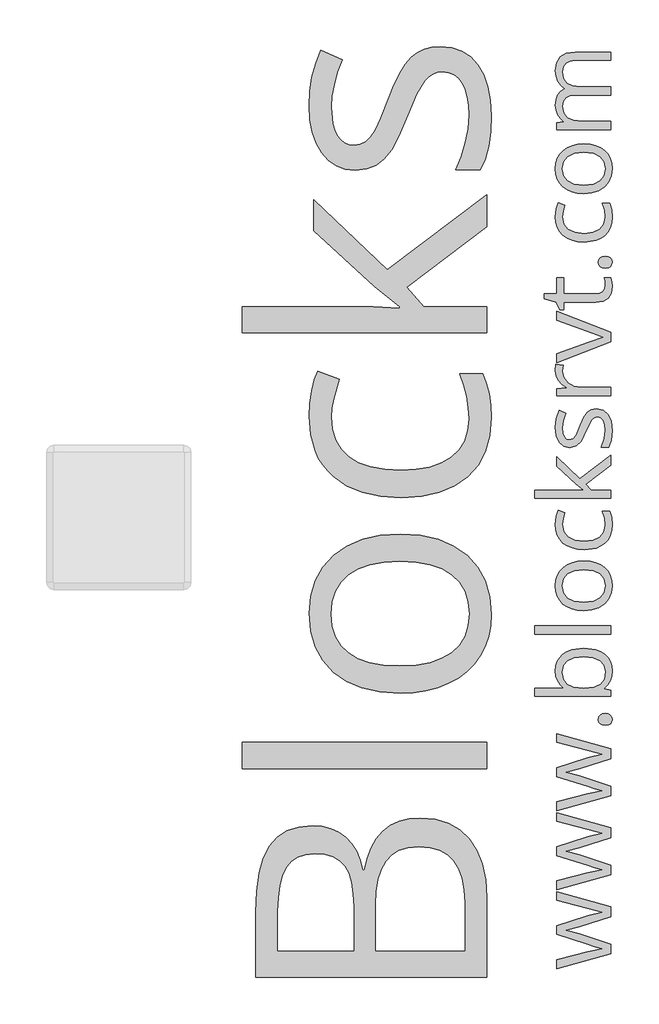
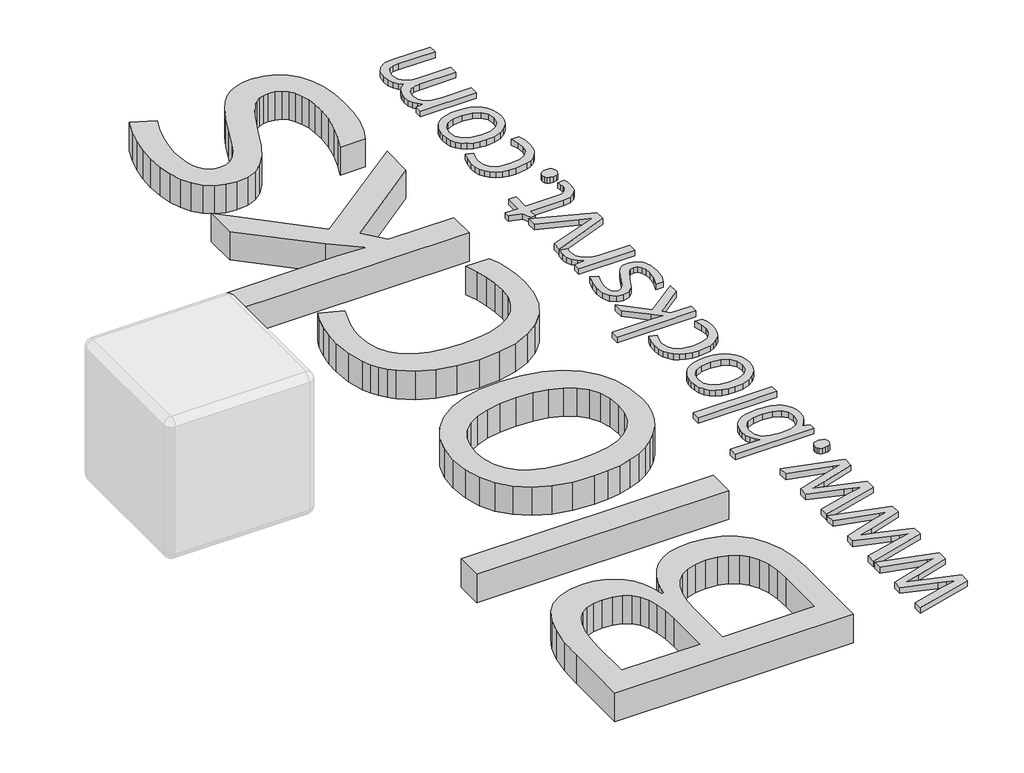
# One storey, part 11 of 11: 2 proxies.
"""IFC4 building model written with IfcOpenShell, lengths in millimetres."""

from ifc_helpers import new_model, si_unit, origin, origin_with_axes, place, context, project, spatial, polyline, outline, extrude, element, save

model = new_model("IFC4")

# Units and contexts
model_context = context("Model", 3, world=origin())
ifc_project = project(units=[si_unit("LENGTHUNIT", "METRE", prefix="MILLI")], contexts=[model_context])

# Site, building, storey
site = spatial("IfcSite", under=ifc_project)
building = spatial("IfcBuilding", under=site)
storey = spatial("IfcBuildingStorey", under=building, Name="PORTOBELLO - SHOWROOM", Elevation=0.0)

# Proxies
placement = place(None, origin())
element("IfcBuildingElementProxy", 1, Name="25mm OpenSans", ObjectType="25mm OpenSans", at=placement, inside=storey, context=model_context, shape_type="SweptSolid", body=[
    extrude(outline(polyline([(-10492.0104038, 8363.3703802), (-10601.8220472, 8328.8902738), (-10647.5456666, 8316.672323), (-10601.4472634, 8303.2550642), (-10492.0104038, 8267.7255632), (-10492.0104038, 8234.8195486), (-10679.1024596, 8183.4741727), (-10679.1024596, 8213.3069605), (-10571.7643892, 8241.0409591), (-10522.0680618, 8251.9846451), (-10547.2535309, 8259.4053636), (-10571.7643892, 8266.7511254), (-10679.1024596, 8301.2312319), (-10679.1024596, 8332.1134142), (-10571.6894324, 8365.7689963), (-10522.3678888, 8378.8114714), (-10541.3319474, 8383.9085306), (-10679.1024596, 8419.6629018), (-10679.1024596, 8449.1958626), (-10492.0104038, 8397.1758759), (-10492.0104038, 8363.3703802)])), origin_with_axes(), (0.0, 0.0, 1.0), 20.0),
    extrude(outline(polyline([(-10492.0104038, 8636.8126157), (-10601.8220472, 8602.3325092), (-10647.5456666, 8590.1145585), (-10601.4472634, 8576.6972996), (-10492.0104038, 8541.1677987), (-10492.0104038, 8508.261784), (-10679.1024596, 8456.9164081), (-10679.1024596, 8486.7491959), (-10571.7643892, 8514.4831945), (-10522.0680618, 8525.4268805), (-10547.2535309, 8532.8475991), (-10571.7643892, 8540.1933609), (-10679.1024596, 8574.6734673), (-10679.1024596, 8605.5556496), (-10571.6894324, 8639.2112318), (-10522.3678888, 8652.2537068), (-10541.3319474, 8657.350766), (-10679.1024596, 8693.1051373), (-10679.1024596, 8722.638098), (-10492.0104038, 8670.6181113), (-10492.0104038, 8636.8126157)])), origin_with_axes(), (0.0, 0.0, 1.0), 20.0),
    extrude(outline(polyline([(-10492.0104038, 8910.2548511), (-10601.8220472, 8875.7747446), (-10647.5456666, 8863.5567939), (-10601.4472634, 8850.1395351), (-10492.0104038, 8814.6100341), (-10492.0104038, 8781.7040195), (-10679.1024596, 8730.3586436), (-10679.1024596, 8760.1914313), (-10571.7643892, 8787.92543), (-10522.0680618, 8798.8691159), (-10547.2535309, 8806.2898345), (-10571.7643892, 8813.6355963), (-10679.1024596, 8848.1157027), (-10679.1024596, 8878.997885), (-10571.6894324, 8912.6534672), (-10522.3678888, 8925.6959422), (-10541.3319474, 8930.7930014), (-10679.1024596, 8966.5473727), (-10679.1024596, 8996.0803334), (-10492.0104038, 8944.0603467), (-10492.0104038, 8910.2548511)])), origin_with_axes(), (0.0, 0.0, 1.0), 20.0),
    extrude(outline(polyline([(-10511.1243759, 9025.2385104), (-10521.533995, 9026.540884), (-10529.0765183, 9030.4480047), (-10533.6582498, 9036.79122), (-10535.1854936, 9045.401877), (-10533.6582498, 9054.265513), (-10529.0765183, 9060.9179249), (-10521.533995, 9065.0780247), (-10511.1243759, 9066.4647246), (-10500.9208879, 9065.0499159), (-10493.3971038, 9060.8054897), (-10488.7591547, 9054.1249691), (-10487.2131716, 9045.401877), (-10492.7974497, 9030.972702), (-10500.1713203, 9026.6720583), (-10511.1243759, 9025.2385104)])), origin_with_axes(), (0.0, 0.0, 1.0), 20.0),
    extrude(outline(polyline([(-10683.8996918, 9213.604831), (-10682.2998336, 9231.1892168), (-10677.500259, 9246.6888679), (-10669.500968, 9260.1037843), (-10658.3019606, 9271.433966), (-10644.1796399, 9280.4358036), (-10627.4104088, 9286.8656876), (-10585.9312155, 9292.0095948), (-10544.3114783, 9286.8188396), (-10527.4227849, 9280.3303957), (-10513.1482082, 9271.2465742), (-10501.8016297, 9259.8625173), (-10493.6969308, 9246.4733672), (-10488.8341114, 9231.0791241), (-10487.2131716, 9213.6797877), (-10488.9278074, 9196.036842), (-10494.0717145, 9179.9867272), (-10502.7760675, 9165.979184), (-10515.1720405, 9154.4639528), (-10515.1720405, 9152.3651637), (-10492.0104038, 9146.3686234), (-10492.0104038, 9126.0553433), (-10755.8581748, 9126.0553433), (-10755.8581748, 9154.388996), (-10693.269286, 9154.388996), (-10655.4910824, 9153.0397745), (-10667.919849, 9165.5950306), (-10676.7975395, 9179.1996813), (-10682.1241538, 9195.2029481), (-10683.8996918, 9213.604831)]), holes=[polyline([(-10659.9135308, 9209.6321231), (-10655.6784743, 9184.3623277), (-10642.9733046, 9167.3190359), (-10620.2426692, 9157.621506), (-10585.9312155, 9154.388996), (-10551.4792178, 9157.7152019), (-10528.4768642, 9167.6938197), (-10515.5187155, 9184.9994601), (-10511.1993326, 9210.3067339), (-10516.0434128, 9233.3840442), (-10530.5756533, 9249.6965076), (-10554.177661, 9259.3940376), (-10586.2310425, 9262.6265475), (-10618.677947, 9259.3940376), (-10641.6615615, 9249.6965076), (-10655.3505385, 9233.2153915), (-10659.9135308, 9209.6321231)])]), origin_with_axes(), (0.0, 0.0, 1.0), 20.0),
    extrude(outline(polyline([(-10492.0104038, 9369.2900072), (-10492.0104038, 9340.9563546), (-10755.8581748, 9340.9563546), (-10755.8581748, 9369.2900072), (-10492.0104038, 9369.2900072)])), origin_with_axes(), (0.0, 0.0, 1.0), 20.0),
    extrude(outline(polyline([(-10585.7063452, 9594.2352234), (-10563.7791526, 9592.7946483), (-10544.3958047, 9588.472923), (-10527.5563016, 9581.2700475), (-10513.2606433, 9571.1860218), (-10501.8648745, 9558.5675209), (-10493.7250396, 9543.7612198), (-10488.8411386, 9526.7671184), (-10487.2131716, 9507.5852168), (-10490.2020722, 9483.8895132), (-10499.1687738, 9463.023427), (-10513.7197535, 9445.7927434), (-10533.4614883, 9433.0032474), (-10557.6912588, 9425.0765708), (-10585.7063452, 9422.4343452), (-10607.6241683, 9423.8632083), (-10626.9794074, 9428.1497976), (-10643.7720625, 9435.2941132), (-10658.0021336, 9445.2961549), (-10669.3323154, 9457.8373567), (-10677.4253023, 9472.5991523), (-10682.2810945, 9489.5815416), (-10683.8996918, 9508.7845248), (-10682.2436161, 9527.3808268), (-10677.2753888, 9543.9673508), (-10668.99501, 9558.5440969), (-10657.4024796, 9571.1110651), (-10642.9850166, 9581.2278843), (-10626.2298399, 9588.4541838), (-10607.1369494, 9592.7899635), (-10585.7063452, 9594.2352234)]), holes=[polyline([(-10585.9312155, 9451.8923492), (-10553.7747684, 9455.4715342), (-10530.3133047, 9466.209089), (-10515.9778256, 9483.8801436), (-10511.1993326, 9508.2598276), (-10515.9590865, 9532.6582507), (-10530.2383479, 9550.3855228), (-10553.6810725, 9561.1792953), (-10585.9312155, 9564.7772194), (-10617.8534227, 9561.1792953), (-10641.0619074, 9550.3855228), (-10655.200625, 9532.5645548), (-10659.9135308, 9507.8850438), (-10655.2662121, 9483.5522078), (-10641.3242561, 9466.0216972), (-10618.1813585, 9455.4246862), (-10585.9312155, 9451.8923492)])]), origin_with_axes(), (0.0, 0.0, 1.0), 20.0),
    extrude(outline(polyline([(-10487.2131716, 9719.6378714), (-10488.7989754, 9700.2943443), (-10493.5563869, 9683.2651069), (-10501.4854059, 9668.5501593), (-10512.5860326, 9656.1495015), (-10526.5865486, 9646.3114276), (-10543.2152358, 9639.284232), (-10584.3571237, 9633.6624755), (-10606.8043288, 9635.0889963), (-10626.5484061, 9639.3685584), (-10643.5893554, 9646.5011619), (-10657.9271769, 9656.4868069), (-10669.2901522, 9669.1099926), (-10677.4065631, 9684.1552184), (-10682.2764097, 9701.6224842), (-10683.8996918, 9721.5117902), (-10681.126292, 9748.75857), (-10674.6050545, 9770.0837662), (-10651.1435907, 9761.3138261), (-10657.4024796, 9740.5882839), (-10659.9135308, 9720.7622227), (-10655.224049, 9695.54396), (-10641.1556034, 9677.5309153), (-10617.708194, 9666.7230885), (-10584.881821, 9663.1204795), (-10553.4187238, 9666.6340773), (-10530.2383479, 9677.1748707), (-10515.9590865, 9694.6116854), (-10511.1993326, 9718.8133471), (-10513.729123, 9742.7807689), (-10521.3184943, 9767.3103664), (-10496.6577225, 9767.3103664), (-10489.5743094, 9745.9102134), (-10487.2131716, 9719.6378714)])), origin_with_axes(), (0.0, 0.0, 1.0), 20.0),
    extrude(outline(polyline([(-10585.8562587, 9838.8940656), (-10613.7401709, 9861.7558753), (-10679.1024596, 9921.7212778), (-10679.1024596, 9955.077033), (-10599.3484743, 9879.8204528), (-10492.0104038, 9960.3240057), (-10492.0104038, 9926.218683), (-10578.3605834, 9860.631524), (-10560.3709627, 9839.6436331), (-10492.0104038, 9839.6436331), (-10492.0104038, 9811.6098075), (-10755.8581748, 9811.6098075), (-10755.8581748, 9839.6436331), (-10614.8645222, 9839.6436331), (-10585.8562587, 9838.8940656)])), origin_with_axes(), (0.0, 0.0, 1.0), 20.0),
    extrude(outline(polyline([(-10542.4562987, 10120.5815439), (-10518.9667262, 10115.6812461), (-10501.5673899, 10100.9803529), (-10490.8017262, 10077.4345629), (-10487.2131716, 10045.9995745), (-10490.1739634, 10012.7000369), (-10499.0563386, 9987.6082638), (-10525.5910292, 9987.6082638), (-10515.0596054, 10016.7664408), (-10511.1993326, 10046.749142), (-10512.9795555, 10066.5658337), (-10518.3202242, 10081.1917701), (-10527.3150346, 10090.2146893), (-10540.0576826, 10093.222329), (-10550.345497, 10090.8330825), (-10559.0217411, 10083.665343), (-10577.6110159, 10046.449315), (-10594.8510691, 10009.0458952), (-10611.5289467, 9992.5179312), (-10633.9035375, 9987.0835666), (-10654.6290797, 9991.7683636), (-10670.482433, 10005.8227548), (-10680.5453771, 10028.0474321), (-10683.8996918, 10057.2430875), (-10680.7889866, 10087.2820063), (-10671.4568708, 10116.6837927), (-10648.2952341, 10106.4896743), (-10657.0089567, 10079.4302864), (-10659.9135308, 10055.0693416), (-10658.3113302, 10037.2483736), (-10653.5047284, 10024.4120296), (-10645.8685092, 10016.6540057), (-10635.7774563, 10014.0679977), (-10622.7724597, 10017.9282705), (-10612.5783412, 10030.4085699), (-10598.52395, 10063.464498), (-10586.1935641, 10091.5451716), (-10573.7882215, 10108.7758553), (-10559.7338303, 10117.6301217), (-10542.4562987, 10120.5815439)])), origin_with_axes(), (0.0, 0.0, 1.0), 20.0),
    extrude(outline(polyline([(-10683.8996918, 10253.0301267), (-10682.025773, 10275.6670661), (-10657.3650012, 10271.6943582), (-10659.9135308, 10251.0062943), (-10655.2193642, 10229.6717285), (-10641.1368642, 10211.6914773), (-10620.0459078, 10199.464157), (-10594.3263719, 10195.3883835), (-10492.0104038, 10195.3883835), (-10492.0104038, 10167.0547308), (-10679.1024596, 10167.0547308), (-10679.1024596, 10190.4412378), (-10645.5218342, 10193.6643782), (-10661.8436672, 10206.6506357), (-10673.9304437, 10220.4239391), (-10681.4073798, 10235.9962045), (-10683.8996918, 10253.0301267)])), origin_with_axes(), (0.0, 0.0, 1.0), 20.0),
    extrude(outline(polyline([(-10492.0104038, 10352.6476516), (-10679.1024596, 10280.6891686), (-10679.1024596, 10311.4963941), (-10568.166465, 10352.3478246), (-10517.6456134, 10368.5384832), (-10555.12399, 10381.9557421), (-10679.1024596, 10427.3795344), (-10679.1024596, 10458.18676), (-10492.0104038, 10386.228277), (-10492.0104038, 10352.6476516)])), origin_with_axes(), (0.0, 0.0, 1.0), 20.0),
    extrude(outline(polyline([(-10511.1993326, 10549.5590421), (-10512.3236839, 10564.2505657), (-10514.6473433, 10575.4940786), (-10492.4601443, 10575.4940786), (-10488.7123067, 10561.7769928), (-10487.2131716, 10545.5113774), (-10490.7736174, 10521.5064772), (-10501.4549547, 10504.3601199), (-10519.2571836, 10494.0723055), (-10544.180304, 10490.6430341), (-10655.1162986, 10490.6430341), (-10655.1162986, 10463.5086895), (-10669.1332115, 10463.5086895), (-10681.2762055, 10490.4931206), (-10722.2775494, 10502.5611578), (-10722.2775494, 10519.0516435), (-10679.1024596, 10519.0516435), (-10679.1024596, 10574.1448571), (-10655.1162986, 10574.1448571), (-10655.1162986, 10519.0516435), (-10545.9043093, 10519.0516435), (-10531.0722418, 10521.0848455), (-10520.1566646, 10527.1844512), (-10513.4386656, 10536.8445028), (-10511.1993326, 10549.5590421)])), origin_with_axes(), (0.0, 0.0, 1.0), 20.0),
    extrude(outline(polyline([(-10511.1243759, 10608.3251365), (-10521.533995, 10609.6275101), (-10529.0765183, 10613.5346308), (-10533.6582498, 10619.8778461), (-10535.1854936, 10628.4885031), (-10533.6582498, 10637.3521392), (-10529.0765183, 10644.004551), (-10521.533995, 10648.1646508), (-10511.1243759, 10649.5513507), (-10500.9208879, 10648.136542), (-10493.3971038, 10643.8921159), (-10488.7591547, 10637.2115952), (-10487.2131716, 10628.4885031), (-10492.7974497, 10614.0593281), (-10500.1713203, 10609.7586844), (-10511.1243759, 10608.3251365)])), origin_with_axes(), (0.0, 0.0, 1.0), 20.0),
    extrude(outline(polyline([(-10487.2131716, 10784.6234199), (-10488.7989754, 10765.2798928), (-10493.5563869, 10748.2506554), (-10501.4854059, 10733.5357078), (-10512.5860326, 10721.13505), (-10526.5865486, 10711.2969761), (-10543.2152358, 10704.2697805), (-10584.3571237, 10698.648024), (-10606.8043288, 10700.0745447), (-10626.5484061, 10704.3541069), (-10643.5893554, 10711.4867104), (-10657.9271769, 10721.4723554), (-10669.2901522, 10734.0955411), (-10677.4065631, 10749.1407669), (-10682.2764097, 10766.6080327), (-10683.8996918, 10786.4973387), (-10681.126292, 10813.7441185), (-10674.6050545, 10835.0693147), (-10651.1435907, 10826.2993746), (-10657.4024796, 10805.5738324), (-10659.9135308, 10785.7477712), (-10655.224049, 10760.5295085), (-10641.1556034, 10742.5164638), (-10617.708194, 10731.708637), (-10584.881821, 10728.106028), (-10553.4187238, 10731.6196258), (-10530.2383479, 10742.1604192), (-10515.9590865, 10759.5972339), (-10511.1993326, 10783.7988956), (-10513.729123, 10807.7663174), (-10521.3184943, 10832.2959149), (-10496.6577225, 10832.2959149), (-10489.5743094, 10810.8957618), (-10487.2131716, 10784.6234199)])), origin_with_axes(), (0.0, 0.0, 1.0), 20.0),
    extrude(outline(polyline([(-10585.7063452, 11038.2021157), (-10563.7791526, 11036.7615406), (-10544.3958047, 11032.4398153), (-10527.5563016, 11025.2369398), (-10513.2606433, 11015.1529141), (-10501.8648745, 11002.5344132), (-10493.7250396, 10987.7281121), (-10488.8411386, 10970.7340107), (-10487.2131716, 10951.5521091), (-10490.2020722, 10927.8564055), (-10499.1687738, 10906.9903194), (-10513.7197535, 10889.7596357), (-10533.4614883, 10876.9701397), (-10557.6912588, 10869.0434631), (-10585.7063452, 10866.4012375), (-10607.6241683, 10867.8301006), (-10626.9794074, 10872.11669), (-10643.7720625, 10879.2610055), (-10658.0021336, 10889.2630472), (-10669.3323154, 10901.804249), (-10677.4253023, 10916.5660446), (-10682.2810945, 10933.548434), (-10683.8996918, 10952.7514171), (-10682.2436161, 10971.3477191), (-10677.2753888, 10987.9342431), (-10668.99501, 11002.5109892), (-10657.4024796, 11015.0779574), (-10642.9850166, 11025.1947766), (-10626.2298399, 11032.4210761), (-10607.1369494, 11036.7568558), (-10585.7063452, 11038.2021157)]), holes=[polyline([(-10585.9312155, 10895.8592415), (-10553.7747684, 10899.4384265), (-10530.3133047, 10910.1759814), (-10515.9778256, 10927.8470359), (-10511.1993326, 10952.2267199), (-10515.9590865, 10976.625143), (-10530.2383479, 10994.3524151), (-10553.6810725, 11005.1461876), (-10585.9312155, 11008.7441117), (-10617.8534227, 11005.1461876), (-10641.0619074, 10994.3524151), (-10655.200625, 10976.5314471), (-10659.9135308, 10951.8519361), (-10655.2662121, 10927.5191001), (-10641.3242561, 10909.9885895), (-10618.1813585, 10899.3915785), (-10585.9312155, 10895.8592415)])]), origin_with_axes(), (0.0, 0.0, 1.0), 20.0),
    extrude(outline(polyline([(-10492.0104038, 11327.2353558), (-10614.7895655, 11327.2353558), (-10634.5313003, 11324.8367397), (-10648.6325395, 11317.6408914), (-10657.093283, 11305.3854623), (-10659.9135308, 11287.8081036), (-10656.0813668, 11264.7401629), (-10644.5848748, 11248.6057218), (-10625.1242278, 11239.1049533), (-10597.3995987, 11235.9380305), (-10492.0104038, 11235.9380305), (-10492.0104038, 11207.529421), (-10614.7895655, 11207.529421), (-10634.5313003, 11205.1308049), (-10648.6325395, 11197.9349566), (-10657.093283, 11185.6420491), (-10659.9135308, 11167.9522554), (-10655.8846054, 11144.7718795), (-10643.7978289, 11128.7498735), (-10622.5475894, 11119.4177577), (-10591.0282747, 11116.3070525), (-10492.0104038, 11116.3070525), (-10492.0104038, 11087.9733998), (-10679.1024596, 11087.9733998), (-10679.1024596, 11111.0600798), (-10655.1162986, 11115.6324417), (-10667.1937055, 11126.7166716), (-10676.2915814, 11139.7310378), (-10681.9976642, 11155.2564553), (-10683.8996918, 11172.5246173), (-10681.9320771, 11192.6223968), (-10676.0292328, 11208.916121), (-10666.1911589, 11221.40579), (-10652.4178555, 11230.0914037), (-10665.4415914, 11241.7190701), (-10675.4295787, 11255.7640917), (-10681.7821636, 11272.8073834), (-10683.8996918, 11292.0806386), (-10679.7958096, 11319.936442), (-10667.4841629, 11339.7906119), (-10646.1402275, 11351.6806269), (-10614.939479, 11355.6439652), (-10492.0104038, 11355.6439652), (-10492.0104038, 11327.2353558)])), origin_with_axes(), (0.0, 0.0, 1.0), 20.0),
])
element("IfcBuildingElementProxy", 2, Name="80mm OpenSans", ObjectType="80mm OpenSans", at=placement, inside=storey, context=model_context, shape_type="SweptSolid", body=[
    extrude(outline(polyline([(-11721.3938108, 8152.5162261), (-11721.3938108, 8377.4993467), (-11718.4568317, 8451.3294446), (-11709.6458941, 8514.1777943), (-11694.9609983, 8566.0443958), (-11674.4021441, 8606.9292491), (-11647.5036213, 8637.8989809), (-11613.7997196, 8660.0202178), (-11573.2904391, 8673.29296), (-11525.9757798, 8677.7172074), (-11492.3169469, 8675.2459385), (-11461.7678566, 8667.8321318), (-11434.328509, 8655.4757872), (-11409.9989041, 8638.1769047), (-11389.2147062, 8616.1458052), (-11372.4115798, 8589.5928094), (-11359.589525, 8558.5179172), (-11350.7485416, 8522.9211287), (-11345.4604768, 8522.9211287), (-11335.5453553, 8565.4547465), (-11321.5440019, 8602.3172153), (-11303.4564167, 8633.508535), (-11281.2825995, 8659.0287057), (-11255.0225504, 8678.8777273), (-11224.6762695, 8693.0555999), (-11190.2437566, 8701.5623235), (-11151.7250119, 8704.397898), (-11100.4893727, 8699.8835132), (-11055.1877835, 8686.3403586), (-11015.8202442, 8663.7684342), (-10982.386755, 8632.1677402), (-10955.7285988, 8592.4696969), (-10936.6870586, 8545.6057249), (-10925.2621345, 8491.5758242), (-10921.4538265, 8430.3799947), (-10921.4538265, 8152.5162261), (-11721.3938108, 8152.5162261)]), holes=[polyline([(-11382.9576636, 8245.5380933), (-11382.9576636, 8397.449773), (-11384.8881077, 8442.9316372), (-11390.67944, 8481.5480308), (-11400.3316606, 8513.298954), (-11413.8447694, 8538.1844067), (-11431.9248432, 8556.9555344), (-11455.2779589, 8570.3634828), (-11483.9041165, 8578.4082519), (-11517.803316, 8581.0898415), (-11549.0059029, 8578.1002822), (-11575.5513873, 8569.1316041), (-11597.4397692, 8554.1838073), (-11614.6710485, 8533.2568918), (-11627.7109356, 8505.8250556), (-11637.0251406, 8471.3624969), (-11642.6136636, 8429.8692157), (-11644.4765046, 8381.345212), (-11644.4765046, 8245.5380933), (-11382.9576636, 8245.5380933)]), polyline([(-11306.0403574, 8245.5380933), (-10998.3711327, 8245.5380933), (-10998.3711327, 8411.1506682), (-11000.78231, 8456.2569596), (-11008.0158418, 8495.4292009), (-11020.0717281, 8528.6673923), (-11036.9499691, 8555.9715337), (-11058.9510228, 8577.2665106), (-11086.3753475, 8592.4772084), (-11119.2229431, 8601.603627), (-11157.4938098, 8604.6457666), (-11193.1882473, 8601.5360239), (-11223.8349864, 8592.206796), (-11249.4340274, 8576.6580827), (-11269.9853701, 8554.8898841), (-11285.7594271, 8526.782017), (-11297.0266106, 8492.2142979), (-11303.7869207, 8451.186727), (-11306.0403574, 8403.6993042), (-11306.0403574, 8245.5380933)])]), origin_with_axes(), (0.0, 0.0, 1.0), 100.0),
    extrude(outline(polyline([(-10921.4538265, 8966.1571056), (-10921.4538265, 8875.2985377), (-11767.5441945, 8875.2985377), (-11767.5441945, 8966.1571056), (-10921.4538265, 8966.1571056)])), origin_with_axes(), (0.0, 0.0, 1.0), 100.0),
    extrude(outline(polyline([(-11221.9120538, 9687.4972177), (-11151.5973171, 9682.8776725), (-11089.4400214, 9669.0190367), (-11035.4401665, 9645.9213105), (-10989.5977524, 9613.5844938), (-10953.0545205, 9573.120282), (-10926.9522121, 9525.6403707), (-10911.290827, 9471.1447597), (-10906.0703653, 9409.6334491), (-10908.4665196, 9370.5062765), (-10915.6549827, 9333.6475634), (-10927.6357545, 9299.05731), (-10944.4088351, 9266.7355162), (-10965.6587432, 9237.3281672), (-10991.0699978, 9211.4812482), (-11020.6425988, 9189.1947592), (-11054.3765462, 9170.4687002), (-11091.708481, 9155.6410867), (-11132.0750438, 9145.0499342), (-11175.4762348, 9138.6952427), (-11221.9120538, 9136.5770122), (-11292.1967446, 9141.1590001), (-11354.2639029, 9154.904964), (-11408.1135287, 9177.8149038), (-11453.745622, 9209.8888196), (-11490.0785331, 9250.1051533), (-11516.0306125, 9297.442347), (-11531.6018601, 9351.9004007), (-11536.792276, 9413.4793144), (-11531.4816768, 9473.1127611), (-11515.5498793, 9526.3013788), (-11488.9968835, 9573.0451675), (-11451.8226893, 9613.3441272), (-11405.5896796, 9645.7861043), (-11351.8602371, 9668.9589451), (-11290.6343618, 9682.8626495), (-11221.9120538, 9687.4972177)]), holes=[polyline([(-11222.6331535, 9231.0410788), (-11167.5892063, 9233.9104549), (-11119.5158899, 9242.5185831), (-11078.4132044, 9256.8654634), (-11044.2811498, 9276.9510959), (-11017.465253, 9302.5952056), (-10998.311041, 9333.6175176), (-10986.8185138, 9370.0180318), (-10982.9876714, 9411.7967483), (-10986.8034909, 9453.5904878), (-10998.2509494, 9490.0360707), (-11017.3300468, 9521.1334973), (-11044.0407832, 9546.8827673), (-11078.0977233, 9567.0735602), (-11119.2154317, 9581.4955551), (-11167.3939084, 9590.1487521), (-11222.6331535, 9593.033151), (-11277.3090394, 9590.1487521), (-11324.9992716, 9581.4955551), (-11365.7038499, 9567.0735602), (-11399.4227745, 9546.8827673), (-11425.8706099, 9521.0583827), (-11444.761921, 9489.7356125), (-11456.0967076, 9452.9144568), (-11459.8749698, 9410.5949154), (-11456.1492878, 9368.8537562), (-11444.9722417, 9332.5659138), (-11426.3438316, 9301.7313882), (-11400.2640575, 9276.3501795), (-11366.8080339, 9256.5274479), (-11326.0508754, 9242.368354), (-11277.9925819, 9233.8728976), (-11222.6331535, 9231.0410788)])]), origin_with_axes(), (0.0, 0.0, 1.0), 100.0),
    extrude(outline(polyline([(-10906.0703653, 10089.6305091), (-10911.1556208, 10027.6009081), (-10926.4113872, 9972.9926253), (-10951.8376647, 9925.8056607), (-10987.4344532, 9886.0400143), (-11032.3304238, 9854.4919004), (-11085.6542477, 9831.9575334), (-11147.4059249, 9818.4369132), (-11217.5854553, 9813.9300397), (-11289.5677351, 9818.5045163), (-11352.8817951, 9832.2279458), (-11407.5276351, 9855.1003283), (-11453.5052554, 9887.1216639), (-11473.0256508, 9906.3904256), (-11489.9433269, 9927.6008986), (-11504.2582836, 9950.7530829), (-11515.9705208, 9975.8469784), (-11531.5868372, 10031.8599035), (-11536.792276, 10095.6396737), (-11534.5688851, 10139.3563457), (-11527.8987124, 10183.0129261), (-11518.2239575, 10221.9222666), (-11506.9868198, 10251.3972187), (-11431.7520797, 10223.2743286), (-11451.8226893, 10156.8129687), (-11457.8618997, 10122.9513265), (-11459.8749698, 10093.2360078), (-11456.1154862, 10049.9136872), (-11444.8370355, 10012.367676), (-11426.0396177, 9980.5979742), (-11399.7232327, 9954.6045818), (-11365.8878806, 9934.3874988), (-11324.5335613, 9919.9467252), (-11275.6602749, 9911.2822611), (-11219.2680214, 9908.3941064), (-11165.5010216, 9911.2109023), (-11118.3741487, 9919.6612899), (-11077.8874025, 9933.7452693), (-11044.0407832, 9953.4628405), (-11017.3300468, 9978.708843), (-10998.2509494, 10009.3781166), (-10986.8034909, 10045.4706612), (-10982.9876714, 10086.9864767), (-10985.0157645, 10125.1897403), (-10991.1000436, 10163.8436912), (-11001.2405087, 10202.9483295), (-11015.43716, 10242.5036552), (-10936.3565546, 10242.5036552), (-10923.1063467, 10210.1443041), (-10913.6419126, 10173.878996), (-10907.9632521, 10133.7077311), (-10906.0703653, 10089.6305091)])), origin_with_axes(), (0.0, 0.0, 1.0), 100.0),
    extrude(outline(polyline([(-11222.3927869, 10474.21704), (-11311.8091554, 10545.3655483), (-11521.4088147, 10737.6588137), (-11521.4088147, 10844.6219426), (-11265.6587717, 10603.2938945), (-10921.4538265, 10861.4476034), (-10921.4538265, 10752.0808086), (-11198.3561288, 10541.7600495), (-11140.6681491, 10474.4574066), (-10921.4538265, 10474.4574066), (-10921.4538265, 10384.560305), (-11767.5441945, 10384.560305), (-11767.5441945, 10474.4574066), (-11315.4146541, 10474.4574066), (-11222.3927869, 10469.8904416), (-11222.3927869, 10474.21704)])), origin_with_axes(), (0.0, 0.0, 1.0), 100.0),
    extrude(outline(polyline([(-11083.2205361, 11375.3513553), (-11043.1168742, 11371.422864), (-11007.8956585, 11359.63739), (-10977.556889, 11339.9949334), (-10952.1005657, 11312.4954942), (-10931.962353, 11277.9052408), (-10917.5779154, 11236.9903417), (-10908.9472528, 11189.7507969), (-10906.0703653, 11136.1866064), (-10908.4439853, 11079.5051618), (-10915.5648452, 11029.4037524), (-10927.4329452, 10985.8823782), (-10944.0482852, 10948.9410392), (-11029.1380552, 10948.9410392), (-11009.9988661, 10994.0698649), (-10995.3665504, 11042.4436395), (-10986.0823912, 11091.4784222), (-10982.9876714, 11138.5902722), (-10984.414848, 11172.444403), (-10988.6963778, 11202.1371873), (-10995.8322607, 11227.6686252), (-11005.8224967, 11249.0387166), (-11018.7422005, 11265.9169575), (-11034.6664865, 11277.9728439), (-11053.5953549, 11285.2063757), (-11075.5288054, 11287.6175529), (-11092.6699473, 11285.7021318), (-11108.5191188, 11279.9558682), (-11123.0763199, 11270.3787622), (-11136.3415506, 11256.9708138), (-11163.8635243, 11211.8119422), (-11195.9524629, 11137.6288059), (-11225.6377358, 11065.4587397), (-11251.2367768, 11017.6858816), (-11276.3851304, 10986.6485467), (-11304.7183412, 10964.6850503), (-11337.6185171, 10951.6151174), (-11376.4677659, 10947.2584731), (-11411.6514243, 10951.0142009), (-11442.9291258, 10962.2813844), (-11470.3008703, 10981.0600236), (-11493.7666578, 11007.3501185), (-11512.5903658, 11040.1902028), (-11526.0358714, 11078.61881), (-11534.1031748, 11122.6359403), (-11536.792276, 11172.2415937), (-11534.2984727, 11220.660437), (-11526.8170628, 11268.5685013), (-11514.3480464, 11315.9657867), (-11496.8914234, 11362.8522931), (-11422.6181496, 11330.1624379), (-11438.9180084, 11285.6946203), (-11450.5607647, 11243.3901019), (-11457.5464185, 11203.2488827), (-11459.8749698, 11165.2709628), (-11454.7371341, 11108.123808), (-11448.3148395, 11085.5443722), (-11439.323627, 11066.9610308), (-11428.063955, 11052.4488985), (-11414.8362815, 11042.0830896), (-11399.6406067, 11035.8636043), (-11382.4769304, 11033.7904425), (-11359.7923343, 11036.8851623), (-11340.7733285, 11046.1693215), (-11324.0077594, 11062.36402), (-11308.0834734, 11086.1903574), (-11289.0644676, 11126.5118515), (-11263.0147393, 11192.19202), (-11243.2746337, 11241.5648182), (-11223.4744366, 11282.2393507), (-11203.6141477, 11314.2156175), (-11183.6937673, 11337.4936187), (-11162.4513706, 11354.0563785), (-11138.6250332, 11365.8869212), (-11112.214755, 11372.9852468), (-11083.2205361, 11375.3513553)])), origin_with_axes(), (0.0, 0.0, 1.0), 100.0),
])

save(model, "model.ifc")
